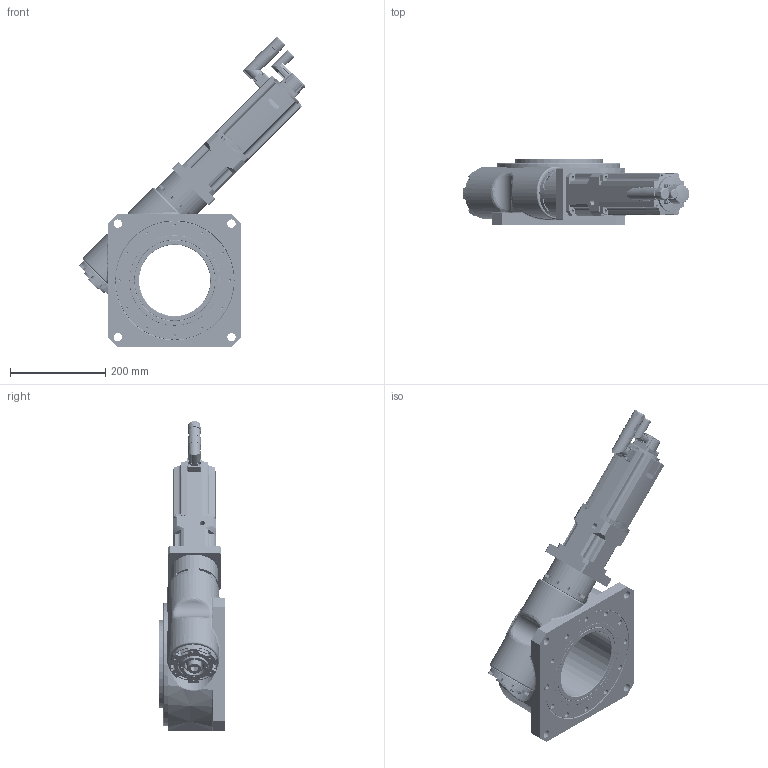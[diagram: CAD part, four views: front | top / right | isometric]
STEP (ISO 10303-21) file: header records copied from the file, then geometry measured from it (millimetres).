
FILE_DESCRIPTION (( 'STEP AP203' ), '1' );
FILE_NAME ('PT-HT100.STEP', '2025-09-10T01:23:45', ( '' ), ( '' ), 'SwSTEP 2.0', 'SolidWorks 2023', '' );
FILE_SCHEMA (( 'CONFIG_CONTROL_DESIGN' ));
Length unit declared in the file: millimetre
Products named in the file (1): PT-HT100
Bounding box: 476.06 x 140 x 652.04 mm (x, y, z)
Volume: 7463711.7 mm3; surface area: 1413057.4 mm2
Topology: 79 solids, 79 shells, 4197 faces, 11928 edges, 7790 vertices
Faces by surface type: cylinder 1656, plane 1370, bspline 789, cone 382
Entity records: 205443 total; most frequent: CARTESIAN_POINT 102336, ORIENTED_EDGE 23374, DIRECTION 19235, EDGE_CURVE 11687, VERTEX_POINT 7790, AXIS2_PLACEMENT_3D 7322, EDGE_LOOP 4893, LINE 4591
